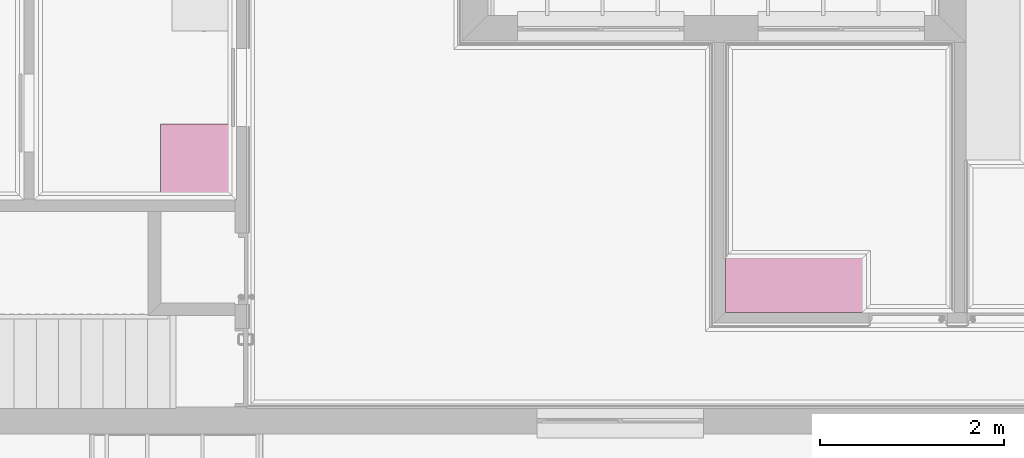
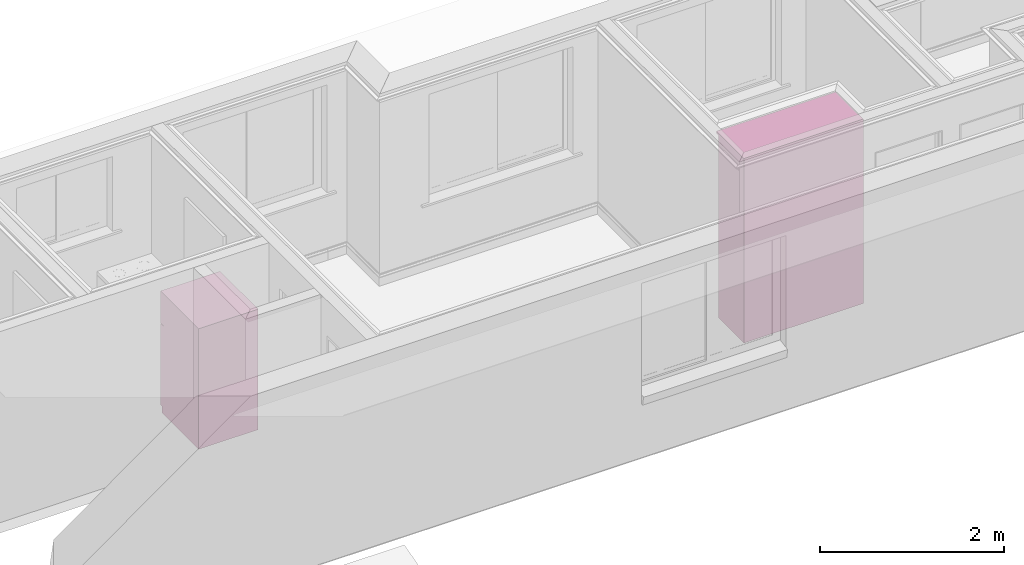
# One storey, part 17 of 18: 2 furnishings.
"""IFC2X3 building model written with IfcOpenShell, lengths in millimetres."""

from ifc_helpers import new_model, entity, si_unit, converted_unit, money_unit, direction, frame, origin_with_axes, place, context, subcontext, project, spatial, open_shell, faceted_brep, surface_model, source, transform, mapped, material, type_object, element, save


model = new_model("IFC2X3")

# Units and contexts
model_context = context("Model", 3, precision=1e-05, world=origin_with_axes(), true_north=direction((0.0, 1.0)))
body_context = subcontext(model_context, "Body", "Model", "MODEL_VIEW")
ifc_project = project(units=[si_unit("LENGTHUNIT", "METRE", prefix="MILLI"), si_unit("AREAUNIT", "SQUARE_METRE"), si_unit("VOLUMEUNIT", "CUBIC_METRE"), converted_unit("PLANEANGLEUNIT", "DEGREE", entity("IfcPlaneAngleMeasure", 0.0174532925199), si_unit("PLANEANGLEUNIT", "RADIAN"), dimensions=[0, 0, 0, 0, 0, 0, 0]), si_unit("SOLIDANGLEUNIT", "STERADIAN"), money_unit("AUD"), si_unit("TIMEUNIT", "SECOND"), si_unit("MASSUNIT", "GRAM"), si_unit("THERMODYNAMICTEMPERATUREUNIT", "DEGREE_CELSIUS"), si_unit("LUMINOUSINTENSITYUNIT", "LUMEN")], contexts=[model_context])

# Site, building, storey
site_placement = place(None, origin_with_axes())
site = spatial("IfcSite", under=ifc_project, at=site_placement, Name="Lot 1. East Hills", CompositionType="ELEMENT")
building_placement = place(site_placement, origin_with_axes())
building = spatial("IfcBuilding", under=site, at=building_placement, Name="Proposed Units 7 & 8", CompositionType="ELEMENT")
storey_placement = place(building_placement, frame((0.0, 0.0, 5859.0), z_axis=(0.0, 0.0, 1.0), x_axis=(1.0, 0.0, 0.0)))
storey = spatial("IfcBuildingStorey", under=building, at=storey_placement, Name="Level 1", CompositionType="ELEMENT", Elevation=5859.0)

# Furnishings
ifc_material = material(Name="50 %")
furnishing_element_type_1 = type_object("IfcFurnishingElementType", Name="Cupboard 12")
shared_shape_1 = source(origin_with_axes(), body_context, "Body", "Brep", [
    faceted_brep([(1480.0, 600.656985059, 120.0), (1480.0, 600.656985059, 2400.0), (1480.0, 580.656985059, 2400.0), (1480.0, 580.656985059, 120.0), (20.0, 600.656985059, 120.0), (20.0, 600.656985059, 2400.0), (20.0, 580.656985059, 2400.0), (20.0, 580.656985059, 120.0)], [[[0, 1, 2, 3]], [[4, 5, 1, 0]], [[1, 5, 6, 2]], [[3, 2, 6, 7]], [[0, 3, 7, 4]], [[7, 6, 5, 4]]]),
    faceted_brep([(1500.0, 600.656985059, 100.0), (1500.0, 50.0, 100.0), (0.0, 50.0, 100.0), (0.0, 600.656985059, 100.0), (1500.0, 600.656985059, 2420.0), (1500.0, 50.0, 2420.0), (0.0, 50.0, 2420.0), (1480.0, 50.0, 120.0), (20.0, 50.0, 120.0), (20.0, 50.0, 2400.0), (1480.0, 50.0, 2400.0), (0.0, 600.656985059, 2420.0), (1480.0, 600.656985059, 120.0), (1480.0, 600.656985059, 2400.0), (20.0, 600.656985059, 2400.0), (20.0, 600.656985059, 120.0)], [[[0, 1, 2, 3]], [[4, 5, 1, 0]], [[1, 5, 6, 2], [7, 8, 9, 10]], [[3, 2, 6, 11]], [[0, 3, 11, 4], [12, 13, 14, 15]], [[11, 6, 5, 4]], [[15, 8, 7, 12]], [[14, 9, 8, 15]], [[13, 10, 9, 14]], [[12, 7, 10, 13]]]),
    faceted_brep([(0.0, 600.656985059, 2420.0), (0.0, 0.0, 2420.0), (0.0, 0.0, 2450.0), (0.0, 600.656985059, 2450.0), (1500.0, 600.656985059, 2420.0), (1500.0, 0.0, 2420.0), (1500.0, 0.0, 2450.0), (1500.0, 600.656985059, 2450.0)], [[[0, 1, 2, 3]], [[0, 4, 5, 1]], [[1, 5, 6, 2]], [[3, 2, 6, 7]], [[4, 0, 3, 7]], [[5, 4, 7, 6]]]),
    faceted_brep([(1460.0, 600.656985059, 0.0), (1460.0, 600.656985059, 100.0), (1460.0, 560.656985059, 100.0), (1460.0, 560.656985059, 0.0), (40.0, 600.656985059, 0.0), (40.0, 600.656985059, 100.0), (40.0, 560.656985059, 100.0), (40.0, 560.656985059, 0.0)], [[[0, 1, 2, 3]], [[4, 5, 1, 0]], [[1, 5, 6, 2]], [[3, 2, 6, 7]], [[0, 3, 7, 4]], [[7, 6, 5, 4]]]),
    faceted_brep([(1500.0, 600.656985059, 0.0), (1500.0, 600.656985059, 100.0), (1500.0, 50.0, 100.0), (1500.0, 50.0, 0.0), (1460.0, 600.656985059, 0.0), (1460.0, 600.656985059, 100.0), (1460.0, 50.0, 100.0), (1460.0, 50.0, 0.0)], [[[0, 1, 2, 3]], [[4, 5, 1, 0]], [[1, 5, 6, 2]], [[3, 2, 6, 7]], [[0, 3, 7, 4]], [[7, 6, 5, 4]]]),
    faceted_brep([(40.0, 600.656985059, 0.0), (40.0, 600.656985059, 100.0), (40.0, 50.0, 100.0), (40.0, 50.0, 0.0), (0.0, 600.656985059, 0.0), (0.0, 600.656985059, 100.0), (0.0, 50.0, 100.0), (0.0, 50.0, 0.0)], [[[0, 1, 2, 3]], [[4, 5, 1, 0]], [[1, 5, 6, 2]], [[3, 2, 6, 7]], [[0, 3, 7, 4]], [[7, 6, 5, 4]]]),
    faceted_brep([(1460.0, 130.0, 0.0), (1460.0, 130.0, 100.0), (1460.0, 90.0, 100.0), (1460.0, 90.0, 0.0), (40.0, 130.0, 0.0), (40.0, 130.0, 100.0), (40.0, 90.0, 100.0), (40.0, 90.0, 0.0)], [[[0, 1, 2, 3]], [[4, 5, 1, 0]], [[1, 5, 6, 2]], [[3, 2, 6, 7]], [[0, 3, 7, 4]], [[7, 6, 5, 4]]]),
    faceted_brep([(1480.0, 580.656985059, 866.666666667), (1480.0, 580.656985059, 886.666666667), (1480.0, 50.0, 886.666666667), (1480.0, 50.0, 866.666666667), (20.0, 580.656985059, 866.666666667), (20.0, 580.656985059, 886.666666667), (20.0, 50.0, 886.666666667), (20.0, 50.0, 866.666666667)], [[[0, 1, 2, 3]], [[4, 5, 1, 0]], [[1, 5, 6, 2]], [[3, 2, 6, 7]], [[0, 3, 7, 4]], [[7, 6, 5, 4]]]),
    faceted_brep([(1480.0, 580.656985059, 1633.33333333), (1480.0, 580.656985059, 1653.33333333), (1480.0, 50.0, 1653.33333333), (1480.0, 50.0, 1633.33333333), (20.0, 580.656985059, 1633.33333333), (20.0, 580.656985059, 1653.33333333), (20.0, 50.0, 1653.33333333), (20.0, 50.0, 1633.33333333)], [[[0, 1, 2, 3]], [[4, 5, 1, 0]], [[1, 5, 6, 2]], [[3, 2, 6, 7]], [[0, 3, 7, 4]], [[7, 6, 5, 4]]]),
    faceted_brep([(493.333333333, 580.656985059, 120.0), (493.333333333, 580.656985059, 2400.0), (513.333333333, 580.656985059, 2400.0), (513.333333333, 580.656985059, 120.0), (493.333333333, 50.0, 120.0), (493.333333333, 50.0, 2400.0), (513.333333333, 50.0, 2400.0), (513.333333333, 50.0, 120.0)], [[[0, 1, 2, 3]], [[4, 5, 1, 0]], [[1, 5, 6, 2]], [[3, 2, 6, 7]], [[0, 3, 7, 4]], [[7, 6, 5, 4]]]),
    faceted_brep([(1490.5, 50.0, 110.0), (997.166666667, 50.0, 110.0), (997.166666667, 50.0, 2410.0), (1490.5, 50.0, 2410.0), (1490.50000039, 40.0, 109.99999961), (997.166666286, 40.0, 109.99999961), (997.166666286, 40.0, 2410.00000036), (1490.50000039, 40.0, 2410.00000036), (1480.50000061, 30.0000002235, 119.999999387), (1007.16666606, 30.0000002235, 119.999999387), (1007.16666606, 30.0000002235, 2400.00000058), (1480.50000061, 30.0000002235, 2400.00000058)], [[[0, 1, 2, 3]], [[0, 4, 5, 1]], [[1, 5, 6, 2]], [[2, 6, 7, 3]], [[3, 7, 4, 0]], [[4, 8, 9, 5]], [[5, 9, 10, 6]], [[6, 10, 11, 7]], [[7, 11, 8, 4]], [[10, 9, 8, 11]]]),
    faceted_brep([(997.166666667, 50.0, 110.0), (503.833333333, 50.0, 110.0), (503.833333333, 50.0, 2410.0), (997.166666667, 50.0, 2410.0), (997.166667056, 40.0, 109.99999961), (503.833332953, 40.0, 109.99999961), (503.833332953, 40.0, 2410.00000036), (997.166667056, 40.0, 2410.00000036), (987.16666728, 30.0000002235, 119.999999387), (513.833332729, 30.0000002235, 119.999999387), (513.833332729, 30.0000002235, 2400.00000058), (987.16666728, 30.0000002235, 2400.00000058)], [[[0, 1, 2, 3]], [[0, 4, 5, 1]], [[1, 5, 6, 2]], [[2, 6, 7, 3]], [[3, 7, 4, 0]], [[4, 8, 9, 5]], [[5, 9, 10, 6]], [[6, 10, 11, 7]], [[7, 11, 8, 4]], [[10, 9, 8, 11]]]),
    faceted_brep([(503.833333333, 50.0, 110.0), (10.5, 50.0, 110.0), (10.5, 50.0, 2410.0), (503.833333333, 50.0, 2410.0), (503.833333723, 40.0, 109.99999961), (10.4999996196, 40.0, 109.99999961), (10.4999996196, 40.0, 2410.00000036), (503.833333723, 40.0, 2410.00000036), (493.833333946, 30.0000002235, 119.999999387), (20.4999993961, 30.0000002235, 119.999999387), (20.4999993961, 30.0000002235, 2400.00000058), (493.833333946, 30.0000002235, 2400.00000058)], [[[0, 1, 2, 3]], [[0, 4, 5, 1]], [[1, 5, 6, 2]], [[2, 6, 7, 3]], [[3, 7, 4, 0]], [[4, 8, 9, 5]], [[5, 9, 10, 6]], [[6, 10, 11, 7]], [[7, 11, 8, 4]], [[10, 9, 8, 11]]]),
    faceted_brep([(442.941028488, 30.0, 954.0), (441.333333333, 30.0, 960.0), (442.941028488, 30.0, 966.0), (447.333333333, 30.0, 970.392304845), (453.333333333, 30.0, 972.0), (459.333333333, 30.0, 970.392304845), (463.725638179, 30.0, 966.0), (465.333333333, 30.0, 960.0), (463.725638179, 30.0, 954.0), (459.333333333, 30.0, 949.607695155), (453.333333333, 30.0, 948.0), (447.333333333, 30.0, 949.607695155), (442.941028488, 5.0, 954.0), (441.333333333, 5.0, 960.0), (442.941028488, 5.0, 966.0), (447.333333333, 5.0, 970.392304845), (453.333333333, 5.0, 972.0), (459.333333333, 5.0, 970.392304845), (463.725638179, 5.0, 966.0), (465.333333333, 5.0, 960.0), (463.725638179, 5.0, 954.0), (459.333333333, 5.0, 949.607695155), (453.333333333, 5.0, 948.0), (447.333333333, 5.0, 949.607695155)], [[[0, 1, 2, 3, 4, 5, 6, 7, 8, 9, 10, 11]], [[0, 12, 13, 1]], [[1, 13, 14, 2]], [[2, 14, 15, 3]], [[3, 15, 16, 4]], [[4, 16, 17, 5]], [[5, 17, 18, 6]], [[6, 18, 19, 7]], [[7, 19, 20, 8]], [[8, 20, 21, 9]], [[9, 21, 22, 10]], [[10, 22, 23, 11]], [[11, 23, 12, 0]], [[12, 23, 22, 21, 20, 19, 18, 17, 16, 15, 14, 13]]]),
    faceted_brep([(1036.27436182, 30.0, 954.0), (1034.66666667, 30.0, 960.0), (1036.27436182, 30.0, 966.0), (1040.66666667, 30.0, 970.392304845), (1046.66666667, 30.0, 972.0), (1052.66666667, 30.0, 970.392304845), (1057.05897151, 30.0, 966.0), (1058.66666667, 30.0, 960.0), (1057.05897151, 30.0, 954.0), (1052.66666667, 30.0, 949.607695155), (1046.66666667, 30.0, 948.0), (1040.66666667, 30.0, 949.607695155), (1036.27436182, 5.0, 954.0), (1034.66666667, 5.0, 960.0), (1036.27436182, 5.0, 966.0), (1040.66666667, 5.0, 970.392304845), (1046.66666667, 5.0, 972.0), (1052.66666667, 5.0, 970.392304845), (1057.05897151, 5.0, 966.0), (1058.66666667, 5.0, 960.0), (1057.05897151, 5.0, 954.0), (1052.66666667, 5.0, 949.607695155), (1046.66666667, 5.0, 948.0), (1040.66666667, 5.0, 949.607695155)], [[[0, 1, 2, 3, 4, 5, 6, 7, 8, 9, 10, 11]], [[0, 12, 13, 1]], [[1, 13, 14, 2]], [[2, 14, 15, 3]], [[3, 15, 16, 4]], [[4, 16, 17, 5]], [[5, 17, 18, 6]], [[6, 18, 19, 7]], [[7, 19, 20, 8]], [[8, 20, 21, 9]], [[9, 21, 22, 10]], [[10, 22, 23, 11]], [[11, 23, 12, 0]], [[12, 23, 22, 21, 20, 19, 18, 17, 16, 15, 14, 13]]]),
    faceted_brep([(957.058971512, 30.0, 954.0), (952.666666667, 30.0, 949.607695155), (946.666666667, 30.0, 948.0), (940.666666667, 30.0, 949.607695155), (936.274361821, 30.0, 954.0), (934.666666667, 30.0, 960.0), (936.274361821, 30.0, 966.0), (940.666666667, 30.0, 970.392304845), (946.666666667, 30.0, 972.0), (952.666666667, 30.0, 970.392304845), (957.058971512, 30.0, 966.0), (958.666666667, 30.0, 960.0), (957.058971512, 5.0, 954.0), (952.666666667, 5.0, 949.607695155), (946.666666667, 5.0, 948.0), (940.666666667, 5.0, 949.607695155), (936.274361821, 5.0, 954.0), (934.666666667, 5.0, 960.0), (936.274361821, 5.0, 966.0), (940.666666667, 5.0, 970.392304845), (946.666666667, 5.0, 972.0), (952.666666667, 5.0, 970.392304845), (957.058971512, 5.0, 966.0), (958.666666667, 5.0, 960.0)], [[[0, 1, 2, 3, 4, 5, 6, 7, 8, 9, 10, 11]], [[1, 0, 12, 13]], [[2, 1, 13, 14]], [[3, 2, 14, 15]], [[4, 3, 15, 16]], [[5, 4, 16, 17]], [[6, 5, 17, 18]], [[7, 6, 18, 19]], [[8, 7, 19, 20]], [[9, 8, 20, 21]], [[10, 9, 21, 22]], [[11, 10, 22, 23]], [[0, 11, 23, 12]], [[12, 23, 22, 21, 20, 19, 18, 17, 16, 15, 14, 13]]]),
])
furnishing_1_placement = place(storey_placement, frame((11059.999999, 1923.65698491, 0.0), z_axis=(0.0, 0.0, 1.0), x_axis=(-1.0, 0.0, 0.0)))
element("IfcFurnishingElement", 1, at=furnishing_1_placement, inside=storey, type_object=furnishing_element_type_1, material=ifc_material, Name="U7_WAR02 - Cupboard 12 - object -", context=body_context, shape_type="MappedRepresentation", body=[
    mapped(shared_shape_1, transform((0.0, 0.0, 0.0))),
])
furnishing_element_type_2 = type_object("IfcFurnishingElementType", Name="Refrigerator 12")
shared_shape_2 = source(origin_with_axes(), body_context, "Body", "SurfaceModel", [
    faceted_brep([(0.0, 0.0, 1575.0), (0.0, 0.0, 1600.0), (-747.612704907, 0.0, 1600.0), (-747.612704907, 0.0, 1575.0), (0.0, 829.588903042, 1575.0), (0.0, 829.588903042, 1600.0), (-747.612704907, 829.588903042, 1600.0), (-747.612704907, 829.588903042, 1575.0)], [[[0, 1, 2, 3]], [[4, 5, 1, 0]], [[1, 5, 6, 2]], [[3, 2, 6, 7]], [[0, 3, 7, 4]], [[7, 6, 5, 4]]]),
    faceted_brep([(0.0, 65.0, 0.0), (0.0, 65.0, 1575.0), (-747.612704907, 65.0, 1575.0), (-747.612704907, 65.0, 0.0), (0.0, 829.588903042, 0.0), (0.0, 829.588903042, 1575.0), (-747.612704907, 829.588903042, 1575.0), (-747.612704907, 829.588903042, 0.0)], [[[0, 1, 2, 3]], [[4, 5, 1, 0]], [[1, 5, 6, 2]], [[3, 2, 6, 7]], [[0, 3, 7, 4]], [[7, 6, 5, 4]]]),
    faceted_brep([(0.0, 30.0, 0.0), (0.0, 30.0, 90.0), (-747.612704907, 30.0, 90.0), (-747.612704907, 30.0, 0.0), (0.0, 70.0, 0.0), (0.0, 70.0, 90.0), (-747.612704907, 70.0, 90.0), (-747.612704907, 70.0, 0.0)], [[[0, 1, 2, 3]], [[4, 5, 1, 0]], [[1, 5, 6, 2]], [[3, 2, 6, 7]], [[0, 3, 7, 4]], [[7, 6, 5, 4]]]),
    faceted_brep([(0.0, 60.0, 90.0), (0.0, 0.0, 90.0), (-747.612704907, 0.0, 90.0), (-747.612704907, 60.0, 90.0), (0.0, 60.0, 1169.5), (0.0, 0.0, 1169.5), (-747.612704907, 0.0, 1169.5), (-747.612704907, 60.0, 1169.5)], [[[0, 1, 2, 3]], [[4, 5, 1, 0]], [[1, 5, 6, 2]], [[3, 2, 6, 7]], [[0, 3, 7, 4]], [[7, 6, 5, 4]]]),
    faceted_brep([(0.0, 60.0, 1174.5), (0.0, 0.0, 1174.5), (-747.612704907, 0.0, 1174.5), (-747.612704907, 60.0, 1174.5), (0.0, 60.0, 1574.5), (0.0, 0.0, 1574.5), (-747.612704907, 0.0, 1574.5), (-747.612704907, 60.0, 1574.5)], [[[0, 1, 2, 3]], [[4, 5, 1, 0]], [[1, 5, 6, 2]], [[3, 2, 6, 7]], [[0, 3, 7, 4]], [[7, 6, 5, 4]]]),
    surface_model("IfcShellBasedSurfaceModel", [(-747.612704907, -30.0, 264.5), (-747.612704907, 0.0, 264.5), (-747.612704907, 0.0, 1169.5), (-747.612704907, -30.0, 1169.5)], [open_shell([[[0, 1, 2, 3]]])]),
    surface_model("IfcShellBasedSurfaceModel", [(-747.612704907, -30.0, 264.5), (-717.612704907, -30.0, 264.5), (-717.612704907, -30.0, 1169.5), (-747.612704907, -30.0, 1169.5)], [open_shell([[[0, 1, 2, 3]]])]),
    surface_model("IfcShellBasedSurfaceModel", [(-747.612704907, -30.0, 1174.5), (-747.612704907, 0.0, 1174.5), (-747.612704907, 0.0, 1374.5), (-747.612704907, -30.0, 1374.5)], [open_shell([[[0, 1, 2, 3]]])]),
    surface_model("IfcShellBasedSurfaceModel", [(-747.612704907, -30.0, 1174.5), (-717.612704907, -30.0, 1174.5), (-717.612704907, -30.0, 1374.5), (-747.612704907, -30.0, 1374.5)], [open_shell([[[0, 1, 2, 3]]])]),
])
furnishing_2_placement = place(storey_placement, frame((3416.28415664, 3372.58890371, 0.0), z_axis=(0.0, 0.0, 1.0), x_axis=(-1.0, 0.0, 0.0)))
element("IfcFurnishingElement", 2, at=furnishing_2_placement, inside=storey, type_object=furnishing_element_type_2, material=ifc_material, Name="U7_FRIDGE - Refrigerator 12 - object -", context=body_context, shape_type="MappedRepresentation", body=[
    mapped(shared_shape_2, transform((0.0, 0.0, 0.0))),
])

save(model, "model.ifc")
